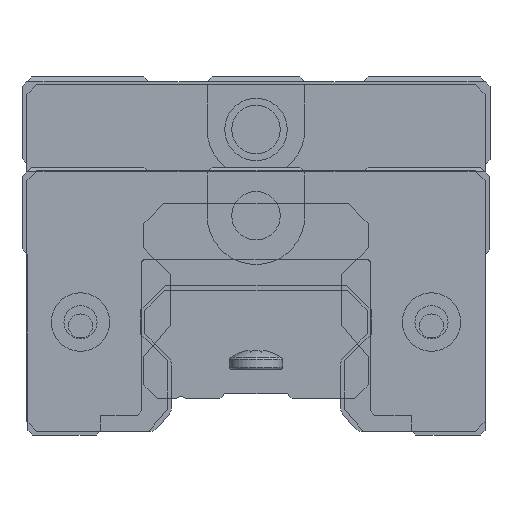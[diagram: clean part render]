
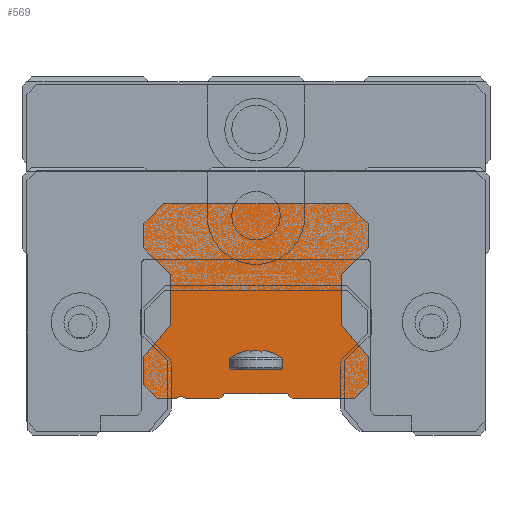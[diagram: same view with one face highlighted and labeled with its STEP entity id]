
A CAD part, front view. The second image highlights one B-rep face of the part: STEP entity #569.
In plain terms, the highlighted planar face has unit normal (0, -1, 0).
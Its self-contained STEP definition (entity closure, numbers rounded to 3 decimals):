
#569 = ADVANCED_FACE( '', ( #1101 ), #1102, .F. );
#1101 = FACE_OUTER_BOUND( '', #1612, .T. );
#1102 = PLANE( '', #1613 );
#1612 = EDGE_LOOP( '', ( #2293, #2294, #2295, #2296, #2297, #2298, #2299, #2300, #2301, #2302, #2303, #2304, #2305, #2306, #2307, #2308, #2309, #2310, #2311, #2312, #2313, #2314 ) );
#1613 = AXIS2_PLACEMENT_3D( '', #2315, #2316, #2317 );
#2293 = ORIENTED_EDGE( '', *, *, #3655, .T. );
#2294 = ORIENTED_EDGE( '', *, *, #3656, .T. );
#2295 = ORIENTED_EDGE( '', *, *, #3657, .T. );
#2296 = ORIENTED_EDGE( '', *, *, #3658, .T. );
#2297 = ORIENTED_EDGE( '', *, *, #3659, .T. );
#2298 = ORIENTED_EDGE( '', *, *, #3660, .T. );
#2299 = ORIENTED_EDGE( '', *, *, #3612, .T. );
#2300 = ORIENTED_EDGE( '', *, *, #3661, .T. );
#2301 = ORIENTED_EDGE( '', *, *, #3662, .T. );
#2302 = ORIENTED_EDGE( '', *, *, #3663, .T. );
#2303 = ORIENTED_EDGE( '', *, *, #3664, .T. );
#2304 = ORIENTED_EDGE( '', *, *, #3665, .T. );
#2305 = ORIENTED_EDGE( '', *, *, #3666, .T. );
#2306 = ORIENTED_EDGE( '', *, *, #3667, .T. );
#2307 = ORIENTED_EDGE( '', *, *, #3668, .T. );
#2308 = ORIENTED_EDGE( '', *, *, #3669, .T. );
#2309 = ORIENTED_EDGE( '', *, *, #3670, .T. );
#2310 = ORIENTED_EDGE( '', *, *, #3671, .T. );
#2311 = ORIENTED_EDGE( '', *, *, #3672, .T. );
#2312 = ORIENTED_EDGE( '', *, *, #3673, .T. );
#2313 = ORIENTED_EDGE( '', *, *, #3674, .T. );
#2314 = ORIENTED_EDGE( '', *, *, #3675, .T. );
#2315 = CARTESIAN_POINT( '', ( -7.7, 0., -10.5 ) );
#2316 = DIRECTION( '', ( 0., 1., 0. ) );
#2317 = DIRECTION( '', ( 0., 0., 1. ) );
#3612 = EDGE_CURVE( '', #4102, #4100, #4103, .T. );
#3655 = EDGE_CURVE( '', #4183, #4184, #4185, .T. );
#3656 = EDGE_CURVE( '', #4184, #4186, #4187, .T. );
#3657 = EDGE_CURVE( '', #4186, #4188, #4189, .T. );
#3658 = EDGE_CURVE( '', #4188, #4190, #4191, .T. );
#3659 = EDGE_CURVE( '', #4190, #4192, #4193, .T. );
#3660 = EDGE_CURVE( '', #4192, #4102, #4194, .T. );
#3661 = EDGE_CURVE( '', #4100, #4195, #4196, .T. );
#3662 = EDGE_CURVE( '', #4195, #4197, #4198, .T. );
#3663 = EDGE_CURVE( '', #4197, #4199, #4200, .T. );
#3664 = EDGE_CURVE( '', #4199, #4201, #4202, .T. );
#3665 = EDGE_CURVE( '', #4201, #4203, #4204, .T. );
#3666 = EDGE_CURVE( '', #4203, #4205, #4206, .T. );
#3667 = EDGE_CURVE( '', #4205, #4207, #4208, .T. );
#3668 = EDGE_CURVE( '', #4207, #4209, #4210, .T. );
#3669 = EDGE_CURVE( '', #4209, #4211, #4212, .T. );
#3670 = EDGE_CURVE( '', #4211, #4213, #4214, .T. );
#3671 = EDGE_CURVE( '', #4213, #4215, #4216, .T. );
#3672 = EDGE_CURVE( '', #4215, #4217, #4218, .T. );
#3673 = EDGE_CURVE( '', #4217, #4219, #4220, .T. );
#3674 = EDGE_CURVE( '', #4219, #4221, #4222, .T. );
#3675 = EDGE_CURVE( '', #4221, #4183, #4223, .T. );
#4100 = VERTEX_POINT( '', #4672 );
#4102 = VERTEX_POINT( '', #4675 );
#4103 = LINE( '', #4676, #4677 );
#4183 = VERTEX_POINT( '', #4781 );
#4184 = VERTEX_POINT( '', #4782 );
#4185 = LINE( '', #4783, #4784 );
#4186 = VERTEX_POINT( '', #4785 );
#4187 = LINE( '', #4786, #4787 );
#4188 = VERTEX_POINT( '', #4788 );
#4189 = CIRCLE( '', #4789, 0.7 );
#4190 = VERTEX_POINT( '', #4790 );
#4191 = LINE( '', #4791, #4792 );
#4192 = VERTEX_POINT( '', #4793 );
#4193 = LINE( '', #4794, #4795 );
#4194 = LINE( '', #4796, #4797 );
#4195 = VERTEX_POINT( '', #4798 );
#4196 = LINE( '', #4799, #4800 );
#4197 = VERTEX_POINT( '', #4801 );
#4198 = LINE( '', #4802, #4803 );
#4199 = VERTEX_POINT( '', #4804 );
#4200 = LINE( '', #4805, #4806 );
#4201 = VERTEX_POINT( '', #4807 );
#4202 = LINE( '', #4808, #4809 );
#4203 = VERTEX_POINT( '', #4810 );
#4204 = LINE( '', #4811, #4812 );
#4205 = VERTEX_POINT( '', #4813 );
#4206 = LINE( '', #4814, #4815 );
#4207 = VERTEX_POINT( '', #4816 );
#4208 = LINE( '', #4817, #4818 );
#4209 = VERTEX_POINT( '', #4819 );
#4210 = LINE( '', #4820, #4821 );
#4211 = VERTEX_POINT( '', #4822 );
#4212 = LINE( '', #4823, #4824 );
#4213 = VERTEX_POINT( '', #4825 );
#4214 = LINE( '', #4826, #4827 );
#4215 = VERTEX_POINT( '', #4828 );
#4216 = LINE( '', #4829, #4830 );
#4217 = VERTEX_POINT( '', #4831 );
#4218 = LINE( '', #4832, #4833 );
#4219 = VERTEX_POINT( '', #4834 );
#4220 = LINE( '', #4835, #4836 );
#4221 = VERTEX_POINT( '', #4837 );
#4222 = LINE( '', #4838, #4839 );
#4223 = LINE( '', #4840, #4841 );
#4672 = CARTESIAN_POINT( '', ( 3.7, 0., -10. ) );
#4675 = CARTESIAN_POINT( '', ( 3.2, 0., -9.5 ) );
#4676 = CARTESIAN_POINT( '', ( 3.7, 0., -10. ) );
#4677 = VECTOR( '', #5518, 1000. );
#4781 = CARTESIAN_POINT( '', ( -11.5, 0., -8.6 ) );
#4782 = CARTESIAN_POINT( '', ( -10.1, 0., -10. ) );
#4783 = CARTESIAN_POINT( '', ( -10.1, 0., -10. ) );
#4784 = VECTOR( '', #5597, 1000. );
#4785 = CARTESIAN_POINT( '', ( -8.19, 0., -10. ) );
#4786 = CARTESIAN_POINT( '', ( -10.1, 0., -10. ) );
#4787 = VECTOR( '', #5598, 1000. );
#4788 = CARTESIAN_POINT( '', ( -7.21, 0., -10. ) );
#4789 = AXIS2_PLACEMENT_3D( '', #5599, #5600, #5601 );
#4790 = CARTESIAN_POINT( '', ( -3.7, 0., -10. ) );
#4791 = CARTESIAN_POINT( '', ( -7.21, 0., -10. ) );
#4792 = VECTOR( '', #5602, 1000. );
#4793 = CARTESIAN_POINT( '', ( -3.2, 0., -9.5 ) );
#4794 = CARTESIAN_POINT( '', ( -3.7, 0., -10. ) );
#4795 = VECTOR( '', #5603, 1000. );
#4796 = CARTESIAN_POINT( '', ( 3.2, 0., -9.5 ) );
#4797 = VECTOR( '', #5604, 1000. );
#4798 = CARTESIAN_POINT( '', ( 10.1, 0., -10. ) );
#4799 = CARTESIAN_POINT( '', ( 10.1, 0., -10. ) );
#4800 = VECTOR( '', #5605, 1000. );
#4801 = CARTESIAN_POINT( '', ( 11.5, 0., -8.6 ) );
#4802 = CARTESIAN_POINT( '', ( 10.1, 0., -10. ) );
#4803 = VECTOR( '', #5606, 1000. );
#4804 = CARTESIAN_POINT( '', ( 11.5, 0., -5.7 ) );
#4805 = CARTESIAN_POINT( '', ( 11.5, 0., -8.6 ) );
#4806 = VECTOR( '', #5607, 1000. );
#4807 = CARTESIAN_POINT( '', ( 8.8, 0., -2.482 ) );
#4808 = CARTESIAN_POINT( '', ( 11.5, 0., -5.7 ) );
#4809 = VECTOR( '', #5608, 1000. );
#4810 = CARTESIAN_POINT( '', ( 8.8, 0., 2.75 ) );
#4811 = CARTESIAN_POINT( '', ( 8.8, 0., -2.482 ) );
#4812 = VECTOR( '', #5609, 1000. );
#4813 = CARTESIAN_POINT( '', ( 11.5, 0., 5.45 ) );
#4814 = CARTESIAN_POINT( '', ( 11.5, 0., 5.45 ) );
#4815 = VECTOR( '', #5610, 1000. );
#4816 = CARTESIAN_POINT( '', ( 11.5, 0., 7.95 ) );
#4817 = CARTESIAN_POINT( '', ( 11.5, 0., 5.45 ) );
#4818 = VECTOR( '', #5611, 1000. );
#4819 = CARTESIAN_POINT( '', ( 9.45, 0., 10. ) );
#4820 = CARTESIAN_POINT( '', ( 11.5, 0., 7.95 ) );
#4821 = VECTOR( '', #5612, 1000. );
#4822 = CARTESIAN_POINT( '', ( -9.45, 0., 10. ) );
#4823 = CARTESIAN_POINT( '', ( -9.45, 0., 10. ) );
#4824 = VECTOR( '', #5613, 1000. );
#4825 = CARTESIAN_POINT( '', ( -11.5, 0., 7.95 ) );
#4826 = CARTESIAN_POINT( '', ( -11.5, 0., 7.95 ) );
#4827 = VECTOR( '', #5614, 1000. );
#4828 = CARTESIAN_POINT( '', ( -11.5, 0., 5.45 ) );
#4829 = CARTESIAN_POINT( '', ( -11.5, 0., 5.45 ) );
#4830 = VECTOR( '', #5615, 1000. );
#4831 = CARTESIAN_POINT( '', ( -8.8, 0., 2.75 ) );
#4832 = CARTESIAN_POINT( '', ( -11.5, 0., 5.45 ) );
#4833 = VECTOR( '', #5616, 1000. );
#4834 = CARTESIAN_POINT( '', ( -8.8, 0., -2.482 ) );
#4835 = CARTESIAN_POINT( '', ( -8.8, 0., -2.482 ) );
#4836 = VECTOR( '', #5617, 1000. );
#4837 = CARTESIAN_POINT( '', ( -11.5, 0., -5.7 ) );
#4838 = CARTESIAN_POINT( '', ( -11.5, 0., -5.7 ) );
#4839 = VECTOR( '', #5618, 1000. );
#4840 = CARTESIAN_POINT( '', ( -11.5, 0., -8.6 ) );
#4841 = VECTOR( '', #5619, 1000. );
#5518 = DIRECTION( '', ( 0.707, 0., -0.707 ) );
#5597 = DIRECTION( '', ( 0.707, 0., -0.707 ) );
#5598 = DIRECTION( '', ( 1., 0., 0. ) );
#5599 = CARTESIAN_POINT( '', ( -7.7, 0., -10.5 ) );
#5600 = DIRECTION( '', ( 0., 1., 0. ) );
#5601 = DIRECTION( '', ( 1., 0., 0. ) );
#5602 = DIRECTION( '', ( 1., 0., 0. ) );
#5603 = DIRECTION( '', ( 0.707, 0., 0.707 ) );
#5604 = DIRECTION( '', ( 1., 0., 0. ) );
#5605 = DIRECTION( '', ( 1., 0., 0. ) );
#5606 = DIRECTION( '', ( 0.707, 0., 0.707 ) );
#5607 = DIRECTION( '', ( 0., 0., 1. ) );
#5608 = DIRECTION( '', ( -0.643, 0., 0.766 ) );
#5609 = DIRECTION( '', ( 0., 0., 1. ) );
#5610 = DIRECTION( '', ( 0.707, 0., 0.707 ) );
#5611 = DIRECTION( '', ( 0., 0., 1. ) );
#5612 = DIRECTION( '', ( -0.707, 0., 0.707 ) );
#5613 = DIRECTION( '', ( -1., 0., 0. ) );
#5614 = DIRECTION( '', ( -0.707, 0., -0.707 ) );
#5615 = DIRECTION( '', ( 0., 0., -1. ) );
#5616 = DIRECTION( '', ( 0.707, 0., -0.707 ) );
#5617 = DIRECTION( '', ( 0., 0., -1. ) );
#5618 = DIRECTION( '', ( -0.643, 0., -0.766 ) );
#5619 = DIRECTION( '', ( 0., 0., -1. ) );
